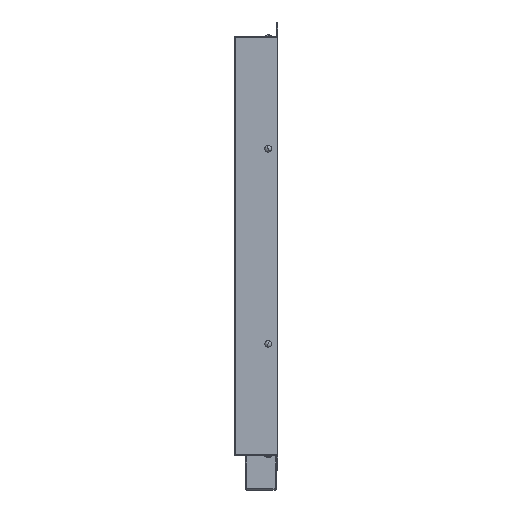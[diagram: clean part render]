
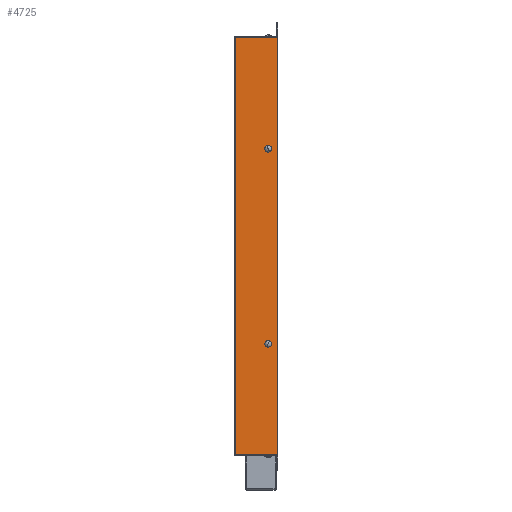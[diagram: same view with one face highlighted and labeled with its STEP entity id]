
A CAD part, left-side view. The second image highlights one B-rep face of the part: STEP entity #4725.
In plain terms, the highlighted planar face has unit normal (-1, 0, 0).
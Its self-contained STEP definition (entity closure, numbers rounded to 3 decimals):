
#53 = EDGE_CURVE ( 'NONE', #3830, #2331, #816, .T. ) ;
#133 = VERTEX_POINT ( 'NONE', #2307 ) ;
#249 = DIRECTION ( 'NONE',  ( -1., 0., 0. ) ) ;
#278 = LINE ( 'NONE', #3910, #5783 ) ;
#296 = CARTESIAN_POINT ( 'NONE',  ( -215., 10., 100. ) ) ;
#312 = ORIENTED_EDGE ( 'NONE', *, *, #5352, .T. ) ;
#661 = VERTEX_POINT ( 'NONE', #2364 ) ;
#735 = DIRECTION ( 'NONE',  ( 0., 0., -1. ) ) ;
#816 = CIRCLE ( 'NONE', #4822, 3.45 ) ;
#965 = VERTEX_POINT ( 'NONE', #1261 ) ;
#1039 = VECTOR ( 'NONE', #735, 1000. ) ;
#1261 = CARTESIAN_POINT ( 'NONE',  ( -215., 0., 214. ) ) ;
#1274 = CARTESIAN_POINT ( 'NONE',  ( -215., 44., -215. ) ) ;
#1281 = AXIS2_PLACEMENT_3D ( 'NONE', #2788, #3894, #3357 ) ;
#1339 = DIRECTION ( 'NONE',  ( 0., -0.924, 0.382 ) ) ;
#1442 = ORIENTED_EDGE ( 'NONE', *, *, #53, .F. ) ;
#1738 = EDGE_CURVE ( 'NONE', #965, #3690, #4897, .T. ) ;
#1824 = CIRCLE ( 'NONE', #1281, 3.45 ) ;
#1844 = DIRECTION ( 'NONE',  ( -1., 0., 0. ) ) ;
#1864 = EDGE_CURVE ( 'NONE', #133, #4486, #6093, .T. ) ;
#2119 = CARTESIAN_POINT ( 'NONE',  ( -215., 653.112, -214. ) ) ;
#2307 = CARTESIAN_POINT ( 'NONE',  ( -215., 6.811, 101.317 ) ) ;
#2331 = VERTEX_POINT ( 'NONE', #3324 ) ;
#2357 = DIRECTION ( 'NONE',  ( 0., -0.924, 0.382 ) ) ;
#2364 = CARTESIAN_POINT ( 'NONE',  ( -215., 44., 214. ) ) ;
#2438 = FACE_BOUND ( 'NONE', #4992, .T. ) ;
#2441 = ORIENTED_EDGE ( 'NONE', *, *, #4975, .T. ) ;
#2505 = CARTESIAN_POINT ( 'NONE',  ( -215., 653.112, -215. ) ) ;
#2662 = LINE ( 'NONE', #2119, #3802 ) ;
#2719 = CARTESIAN_POINT ( 'NONE',  ( -215., 13.189, 98.683 ) ) ;
#2747 = CARTESIAN_POINT ( 'NONE',  ( -215., 10., -100. ) ) ;
#2788 = CARTESIAN_POINT ( 'NONE',  ( -215., 10., -100. ) ) ;
#2826 = CARTESIAN_POINT ( 'NONE',  ( -215., 44., -214. ) ) ;
#2977 = PLANE ( 'NONE',  #5025 ) ;
#3324 = CARTESIAN_POINT ( 'NONE',  ( -215., 6.811, -101.317 ) ) ;
#3357 = DIRECTION ( 'NONE',  ( 0., 0.924, 0.382 ) ) ;
#3511 = EDGE_CURVE ( 'NONE', #2331, #3830, #1824, .T. ) ;
#3608 = DIRECTION ( 'NONE',  ( -1., 0., 0. ) ) ;
#3660 = DIRECTION ( 'NONE',  ( 0., -1., 0. ) ) ;
#3690 = VERTEX_POINT ( 'NONE', #6085 ) ;
#3695 = CIRCLE ( 'NONE', #4674, 3.45 ) ;
#3743 = CARTESIAN_POINT ( 'NONE',  ( -215., 0., -215. ) ) ;
#3802 = VECTOR ( 'NONE', #3660, 1000. ) ;
#3830 = VERTEX_POINT ( 'NONE', #5779 ) ;
#3837 = LINE ( 'NONE', #1274, #1039 ) ;
#3845 = AXIS2_PLACEMENT_3D ( 'NONE', #6067, #4006, #1339 ) ;
#3894 = DIRECTION ( 'NONE',  ( -1., 0., 0. ) ) ;
#3910 = CARTESIAN_POINT ( 'NONE',  ( -215., 653.112, 214. ) ) ;
#4006 = DIRECTION ( 'NONE',  ( -1., 0., 0. ) ) ;
#4051 = FACE_OUTER_BOUND ( 'NONE', #6266, .T. ) ;
#4072 = ORIENTED_EDGE ( 'NONE', *, *, #5943, .F. ) ;
#4122 = ORIENTED_EDGE ( 'NONE', *, *, #1864, .F. ) ;
#4327 = DIRECTION ( 'NONE',  ( 0., 0., -1. ) ) ;
#4477 = ORIENTED_EDGE ( 'NONE', *, *, #3511, .F. ) ;
#4486 = VERTEX_POINT ( 'NONE', #2719 ) ;
#4490 = DIRECTION ( 'NONE',  ( 0., 0., 1. ) ) ;
#4674 = AXIS2_PLACEMENT_3D ( 'NONE', #296, #1844, #2357 ) ;
#4697 = VECTOR ( 'NONE', #4327, 1000. ) ;
#4725 = ADVANCED_FACE ( 'NONE', ( #4051, #6077, #2438 ), #2977, .T. ) ;
#4805 = DIRECTION ( 'NONE',  ( 0., 0.924, 0.382 ) ) ;
#4822 = AXIS2_PLACEMENT_3D ( 'NONE', #2747, #249, #4805 ) ;
#4897 = LINE ( 'NONE', #3743, #4697 ) ;
#4975 = EDGE_CURVE ( 'NONE', #965, #661, #278, .T. ) ;
#4992 = EDGE_LOOP ( 'NONE', ( #4122, #4072 ) ) ;
#5025 = AXIS2_PLACEMENT_3D ( 'NONE', #2505, #3608, #4490 ) ;
#5352 = EDGE_CURVE ( 'NONE', #661, #5876, #3837, .T. ) ;
#5662 = ORIENTED_EDGE ( 'NONE', *, *, #5843, .T. ) ;
#5779 = CARTESIAN_POINT ( 'NONE',  ( -215., 13.189, -98.683 ) ) ;
#5783 = VECTOR ( 'NONE', #5907, 1000. ) ;
#5843 = EDGE_CURVE ( 'NONE', #5876, #3690, #2662, .T. ) ;
#5876 = VERTEX_POINT ( 'NONE', #2826 ) ;
#5907 = DIRECTION ( 'NONE',  ( 0., 1., 0. ) ) ;
#5935 = ORIENTED_EDGE ( 'NONE', *, *, #1738, .F. ) ;
#5943 = EDGE_CURVE ( 'NONE', #4486, #133, #3695, .T. ) ;
#6067 = CARTESIAN_POINT ( 'NONE',  ( -215., 10., 100. ) ) ;
#6077 = FACE_BOUND ( 'NONE', #6196, .T. ) ;
#6085 = CARTESIAN_POINT ( 'NONE',  ( -215., 0., -214. ) ) ;
#6093 = CIRCLE ( 'NONE', #3845, 3.45 ) ;
#6196 = EDGE_LOOP ( 'NONE', ( #1442, #4477 ) ) ;
#6266 = EDGE_LOOP ( 'NONE', ( #5935, #2441, #312, #5662 ) ) ;
